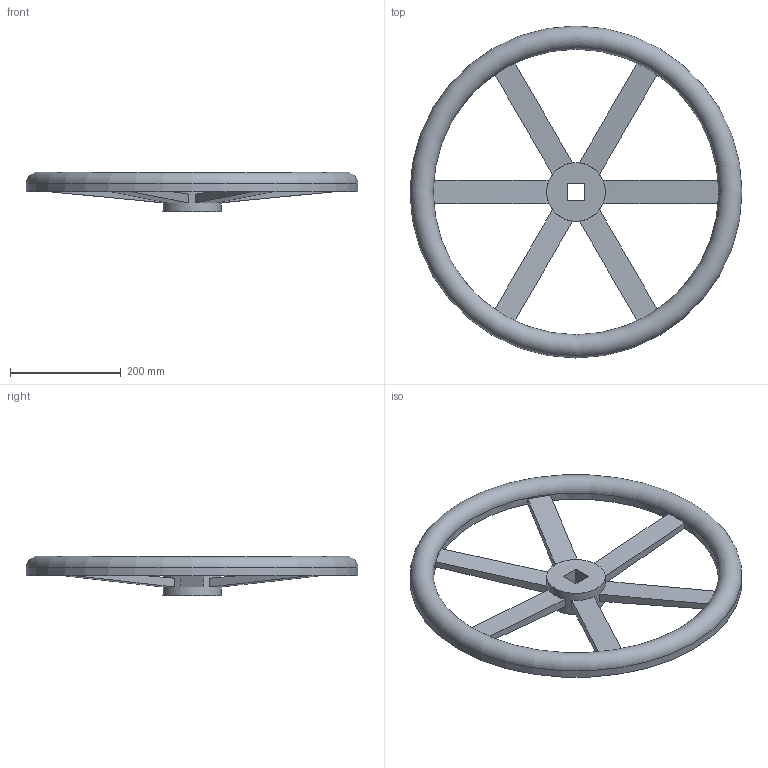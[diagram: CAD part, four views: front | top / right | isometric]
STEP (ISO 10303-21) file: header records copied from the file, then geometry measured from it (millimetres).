
FILE_DESCRIPTION( ( 'STEP AP203' ), '1' );
FILE_NAME( 'p:/temp/worker_215/temp/exporttempdir_3384_131_pI1L7/format_0/5007606 7800 DN400 (400).stp', '2021-01-13T08:48:42', ( 'License CC BY-ND 4.0' ), ( 'CADENAS' ), ' ', 'PARTsolutions', ' ' );
FILE_SCHEMA( ( 'CONFIG_CONTROL_DESIGN' ) );
Length unit declared in the file: millimetre
Products named in the file (1): _5007606 7800 DN400 (400)
Bounding box: 600 x 600 x 70.98 mm (x, y, z)
Volume: 1629826 mm3; surface area: 491007.2 mm2
Topology: 1 solids, 1 shells, 39 faces, 110 edges, 68 vertices
Faces by surface type: plane 20, cone 12, cylinder 5, torus 2
Full cylindrical faces by diameter (mm): 106 x1, 516 x1, 523.2 x1, 592.8 x1, 600 x1
Entity records: 1428 total; most frequent: CARTESIAN_POINT 420, ORIENTED_EDGE 198, DIRECTION 194, EDGE_CURVE 99, AXIS2_PLACEMENT_3D 79, VERTEX_POINT 65, EDGE_LOOP 56, FACE_OUTER_BOUND 46
